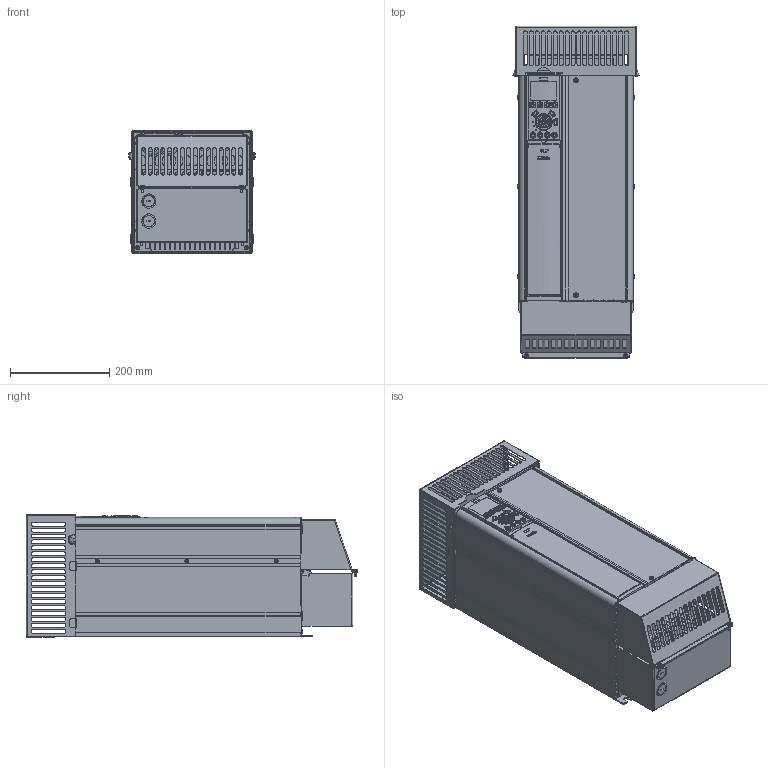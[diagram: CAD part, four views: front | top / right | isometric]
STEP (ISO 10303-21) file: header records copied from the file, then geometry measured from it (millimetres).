
FILE_DESCRIPTION((''),'2;1');
FILE_NAME('DANFOSS-FC100-B4-NEMA1-KIT-188','2008-07-15T',('Abhilash.Paramesh'),('dan Drives A/S'),'PRO/ENGINEER BY PARAMETRIC TECHNOLOGY CORPORATION, 2007160','PRO/ENGINEER BY PARAMETRIC TECHNOLOGY CORPORATION, 2007160','');
FILE_SCHEMA(('CONFIG_CONTROL_DESIGN', 'GEOMETRIC_VALIDATION_PROPERTIES_MIM'));
Products named in the file (1): DANFOSS-FC100-B4-NEMA1-KIT-188
Bounding box: 254.72 x 668 x 246 mm (x, y, z)
Volume: 22238186.9 mm3; surface area: 1825138.9 mm2
Topology: 1 solids, 33 shells, 5513 faces, 15054 edges, 9572 vertices
Faces by surface type: plane 2896, cylinder 1622, bspline 597, torus 159, sphere 88, extrusion 81, cone 70
Entity records: 238771 total; most frequent: CARTESIAN_POINT 78563, ORIENTED_EDGE 29954, DIRECTION 24569, EDGE_CURVE 14977, VERTEX_POINT 9572, VECTOR 8321, LINE 8240, AXIS2_PLACEMENT_3D 8124
